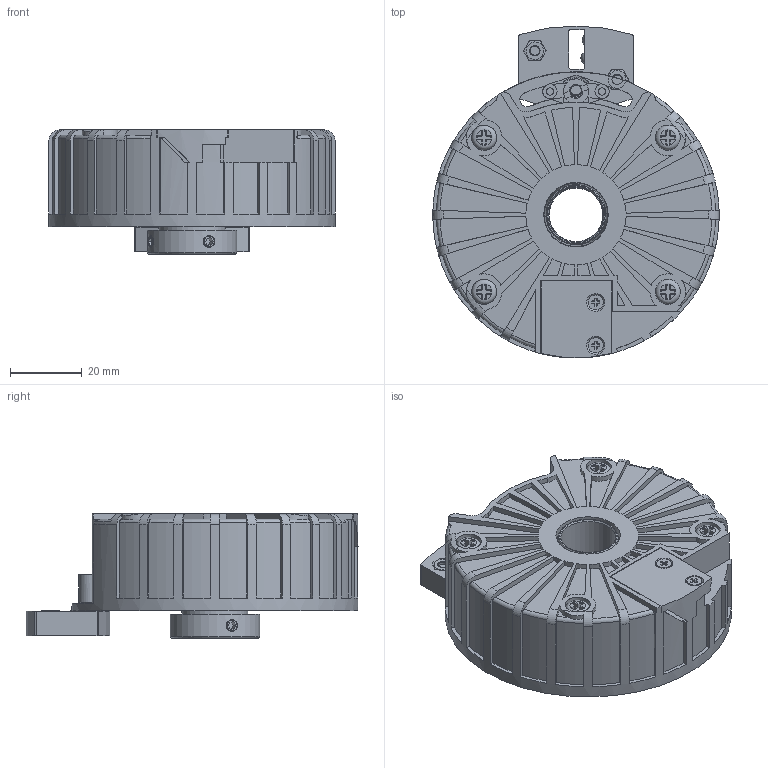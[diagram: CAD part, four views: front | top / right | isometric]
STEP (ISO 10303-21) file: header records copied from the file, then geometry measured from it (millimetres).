
FILE_DESCRIPTION( ( 'Unknown' ), '1' );
FILE_NAME( 'C:/Users/malfermoa/Desktop/step/EH_EF_80P_albero 15.stp', 'Unknown', ( 'Unknown' ), ( 'Unknown' ), 'PSStep 15.0.49', 'Unknown', ' ' );
FILE_SCHEMA( ( 'AUTOMOTIVE_DESIGN { 1 0 10303 214 1 1 1 1 }' ) );
Length unit declared in the file: millimetre
Products named in the file (2): 41320106B1
Bounding box: 80 x 92.77 x 34.7 mm (x, y, z)
Volume: 49631.4 mm3; surface area: 47626.3 mm2
Topology: 2 solids, 18 shells, 1322 faces, 3298 edges, 2055 vertices
Faces by surface type: plane 922, cylinder 263, cone 46, torus 39, extrusion 26, bspline 20, sphere 6
Full cylindrical faces by diameter (mm): 2 x11, 2.1 x2, 2.5 x8, 3 x6, 3.2 x2, 3.242 x2, 3.3 x1, 4 x1, 4.2 x2, 5.6 x2, 6 x2, 7 x6, 15 x1, 15.3 x1, 16.8 x1, 17 x1, 18 x1, 18.5 x1, 19.3 x1, 20.4 x1, 23 x3, 24 x1, 25 x1, 28 x1, 32 x1, 80 x1
Entity records: 62971 total; most frequent: CARTESIAN_POINT 21694, DIRECTION 6321, ORIENTED_EDGE 6202, EDGE_CURVE 3101, VECTOR 2155, LINE 2129, AXIS2_PLACEMENT_3D 2083, VERTEX_POINT 1984
